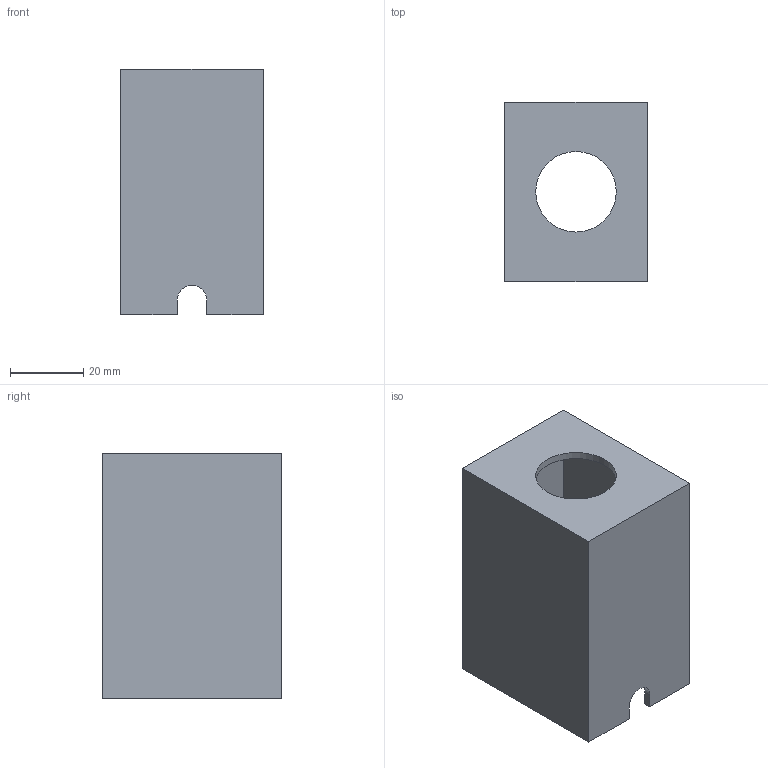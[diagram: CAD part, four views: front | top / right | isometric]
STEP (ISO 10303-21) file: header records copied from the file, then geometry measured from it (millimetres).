
FILE_DESCRIPTION(/* description */ ('Unknown'),/* implementation_level */ '2;1');
FILE_NAME(/* name */ 'Gehaeuse_Not-Aus_Oberteil',/* time_stamp */ '2024-05-16T15:16:00+02:00',/* author */ ('Unknown'),/* organization */ ('Unknown'),/* preprocessor_version */ 'ST-DEVELOPER v18.1',/* originating_system */ 'Solid Edge',/* authorisation */ 'Unknown');
FILE_SCHEMA (('AUTOMOTIVE_DESIGN {1 0 10303 214 3 1 1}'));
Length unit declared in the file: millimetre
Products named in the file (1): Gehaeuse_Not-Aus
Bounding box: 39 x 49 x 67 mm (x, y, z)
Volume: 26003.9 mm3; surface area: 25906.1 mm2
Topology: 1 solids, 1 shells, 35 faces, 104 edges, 71 vertices
Faces by surface type: plane 28, cylinder 7
Full cylindrical faces by diameter (mm): 3.3 x4, 22 x1
Entity records: 1152 total; most frequent: CARTESIAN_POINT 196, ORIENTED_EDGE 188, DIRECTION 180, EDGE_CURVE 94, LINE 80, VECTOR 80, VERTEX_POINT 66, EDGE_LOOP 50
